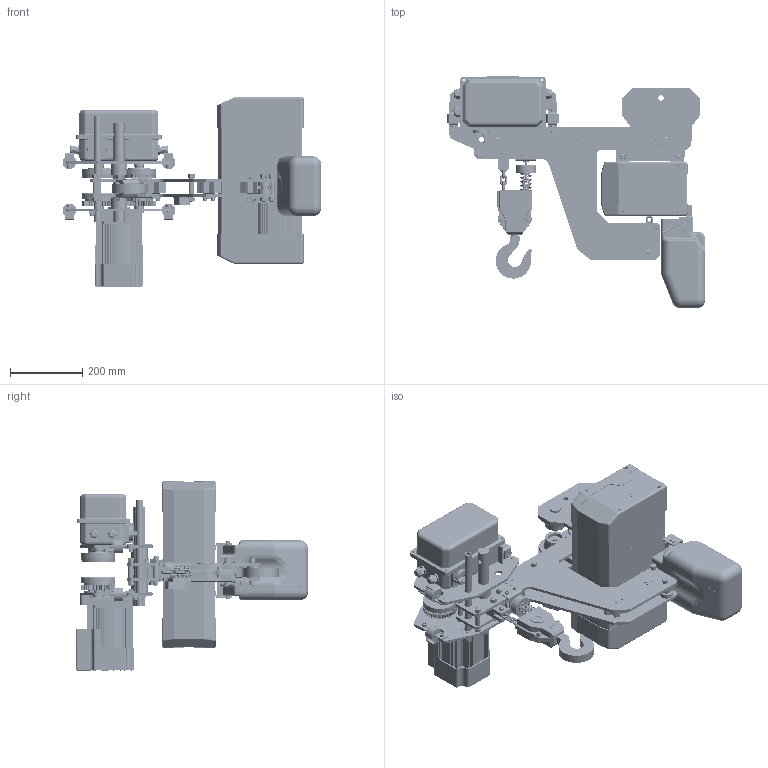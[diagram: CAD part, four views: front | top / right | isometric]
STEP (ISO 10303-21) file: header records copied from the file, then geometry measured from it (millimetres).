
FILE_DESCRIPTION(/* description */ ('CAx-IF Rec.Pracs.---Representation and Presentation of Product Manufacturing Information (PMI)---4.0---2014-10-13','CAx-IF Rec.Pracs.---3D Tessellated Geometry---0.4---2014-09-14','2;1'),/* implementation_level */ '2;1');
FILE_NAME(/* name */ 'YJ 01-02 超低吊',/* time_stamp */ '2026-06-03T16:15:06+08:00',/* author */ (''),/* organization */ (''),/* preprocessor_version */ 'ST-DEVELOPER v16.7',/* originating_system */ $,/* authorisation */ $);
FILE_SCHEMA (('AP242_MANAGED_MODEL_BASED_3D_ENGINEERING_MIM_LF { 1 0 10303 442 20130219 1 4 }'));
Products named in the file (1): YJ 01-02 超低吊
Bounding box: 717.42 x 644.52 x 525.53 mm (x, y, z)
Volume: 20845126.8 mm3; surface area: 3098923.7 mm2
Topology: 36 solids, 142 shells, 7267 faces, 17762 edges, 11072 vertices
Faces by surface type: plane 2779, cylinder 1980, bspline 1456, cone 591, torus 371, sphere 90
Full cylindrical faces by diameter (mm): 2.14 x1, 2.5 x6, 2.7 x2, 3.2 x4, 3.5 x1, 4 x2, 4.2 x4, 4.826 x4, 5 x14, 5.326 x2, 5.7 x4, 5.795 x16, 6 x6, 6.2 x3, 6.3 x4, 6.4 x4, 6.5 x12, 6.6 x8, 6.8 x8, 7.46 x2, 7.76 x18, 8.5 x6, 8.9 x8, 9 x8, 9.045 x2, 9.732 x12, 9.8 x14, 9.9 x8, 10 x16, 10.2 x8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
Entity records: 261459 total; most frequent: CARTESIAN_POINT 89839, ORIENTED_EDGE 33116, DIRECTION 28710, EDGE_CURVE 16558, VERTEX_POINT 10757, AXIS2_PLACEMENT_3D 10737, FACE_BOUND 8819, EDGE_LOOP 8787
